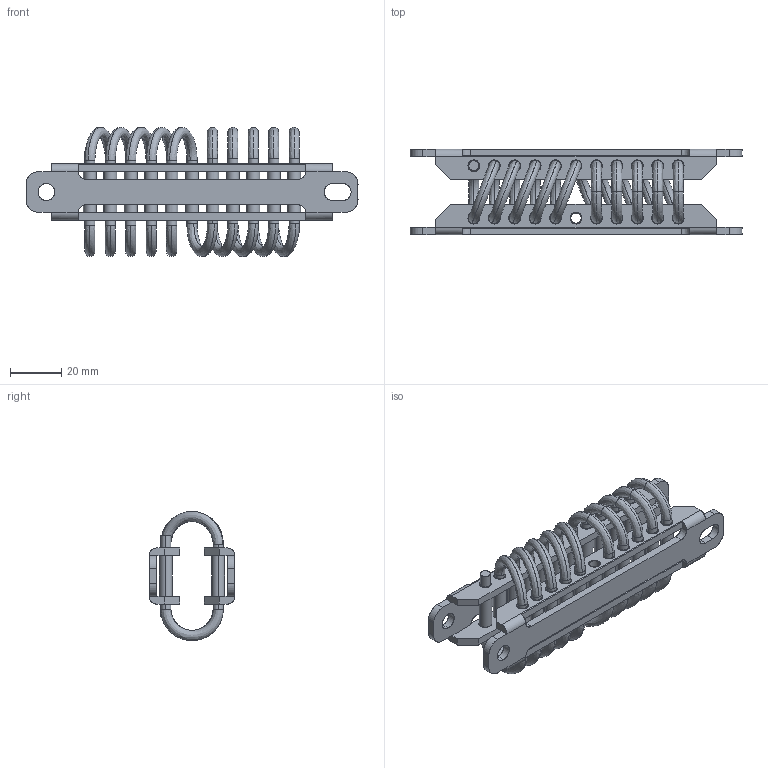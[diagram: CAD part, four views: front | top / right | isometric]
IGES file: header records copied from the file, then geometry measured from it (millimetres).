
Start section: SolidWorks IGES file using analytic representation for surfaces
Bounding box: 130 x 33.5 x 50.59 mm (x, y, z)
Surface area: 38243.1 mm2 (no closed solid volume)
Topology: 0 solids, 0 shells, 278 faces, 7496 edges, 7496 vertices
Faces by surface type: bspline 160, revolution 118
